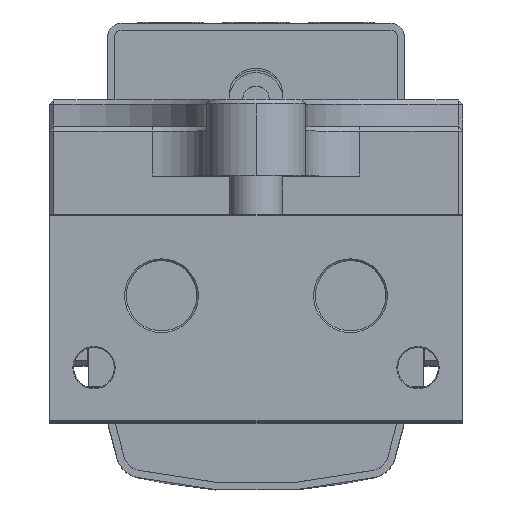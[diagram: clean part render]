
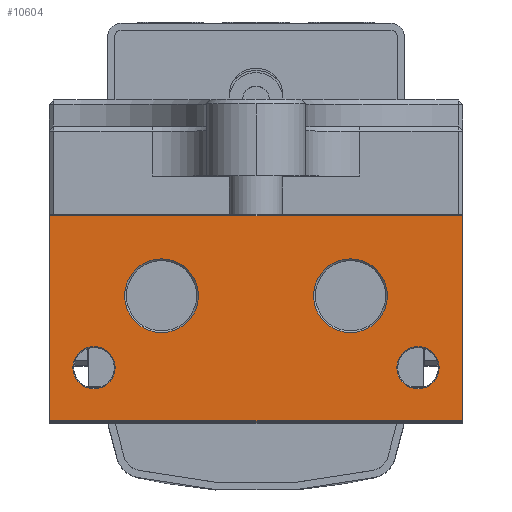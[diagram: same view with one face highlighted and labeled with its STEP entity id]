
A CAD part, top view. The second image highlights one B-rep face of the part: STEP entity #10604.
In plain terms, the highlighted planar face has unit normal (0, 0, 1).
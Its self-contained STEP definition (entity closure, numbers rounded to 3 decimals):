
#421 = ORIENTED_EDGE ( 'NONE', *, *, #3142, .T. ) ;
#1069 = CARTESIAN_POINT ( 'NONE',  ( 15.65, 6., 120. ) ) ;
#1145 = DIRECTION ( 'NONE',  ( 0., 0., -1. ) ) ;
#1353 = DIRECTION ( 'NONE',  ( -1., 0., 0. ) ) ;
#1580 = VERTEX_POINT ( 'NONE', #22456 ) ;
#2059 = CARTESIAN_POINT ( 'NONE',  ( -18., 6., 120. ) ) ;
#2310 = CARTESIAN_POINT ( 'NONE',  ( -22.9, 0., 120. ) ) ;
#2481 = DIRECTION ( 'NONE',  ( -1., 0., 0. ) ) ;
#3106 = VERTEX_POINT ( 'NONE', #7255 ) ;
#3142 = EDGE_CURVE ( 'NONE', #15205, #1580, #7298, .T. ) ;
#3160 = AXIS2_PLACEMENT_3D ( 'NONE', #28952, #8712, #32268 ) ;
#3374 = DIRECTION ( 'NONE',  ( 0., 0., -1. ) ) ;
#3799 = CARTESIAN_POINT ( 'NONE',  ( -22.9, 22.9, 120. ) ) ;
#4512 = ORIENTED_EDGE ( 'NONE', *, *, #37881, .T. ) ;
#4769 = EDGE_LOOP ( 'NONE', ( #30923, #23575, #38433, #15818 ) ) ;
#5432 = CARTESIAN_POINT ( 'NONE',  ( -20.35, 6., 120. ) ) ;
#7202 = AXIS2_PLACEMENT_3D ( 'NONE', #41511, #21867, #1353 ) ;
#7255 = CARTESIAN_POINT ( 'NONE',  ( -14.6, 14., 120. ) ) ;
#7298 = CIRCLE ( 'NONE', #38043, 4.1 ) ;
#7494 = CIRCLE ( 'NONE', #26962, 2.35 ) ;
#7541 = CARTESIAN_POINT ( 'NONE',  ( -23., 22.9, 120. ) ) ;
#7762 = FACE_BOUND ( 'NONE', #19998, .T. ) ;
#7811 = VERTEX_POINT ( 'NONE', #1069 ) ;
#8256 = ORIENTED_EDGE ( 'NONE', *, *, #12387, .T. ) ;
#8712 = DIRECTION ( 'NONE',  ( 0., 0., -1. ) ) ;
#8732 = EDGE_CURVE ( 'NONE', #35239, #18692, #41320, .T. ) ;
#8822 = LINE ( 'NONE', #7541, #43189 ) ;
#10137 = CIRCLE ( 'NONE', #11641, 4.1 ) ;
#10604 = ADVANCED_FACE ( 'NONE', ( #27907, #7762, #34550, #42184, #33542 ), #41702, .F. ) ;
#10970 = DIRECTION ( 'NONE',  ( -1., 0., 0. ) ) ;
#11333 = LINE ( 'NONE', #39538, #36902 ) ;
#11508 = CARTESIAN_POINT ( 'NONE',  ( 22.9, 0.1, 120. ) ) ;
#11641 = AXIS2_PLACEMENT_3D ( 'NONE', #36266, #16407, #39544 ) ;
#11885 = ORIENTED_EDGE ( 'NONE', *, *, #38840, .T. ) ;
#12262 = VECTOR ( 'NONE', #26129, 1000. ) ;
#12387 = EDGE_CURVE ( 'NONE', #7811, #28614, #7494, .T. ) ;
#13090 = EDGE_LOOP ( 'NONE', ( #11885, #40617 ) ) ;
#14238 = CARTESIAN_POINT ( 'NONE',  ( 14.6, 14., 120. ) ) ;
#14494 = ORIENTED_EDGE ( 'NONE', *, *, #14965, .T. ) ;
#14965 = EDGE_CURVE ( 'NONE', #3106, #41912, #20891, .T. ) ;
#14973 = CARTESIAN_POINT ( 'NONE',  ( -18., 6., 120. ) ) ;
#15205 = VERTEX_POINT ( 'NONE', #14238 ) ;
#15818 = ORIENTED_EDGE ( 'NONE', *, *, #20932, .T. ) ;
#16407 = DIRECTION ( 'NONE',  ( 0., 0., -1. ) ) ;
#16619 = VERTEX_POINT ( 'NONE', #3799 ) ;
#18399 = DIRECTION ( 'NONE',  ( -1., 0., 0. ) ) ;
#18692 = VERTEX_POINT ( 'NONE', #21253 ) ;
#19652 = DIRECTION ( 'NONE',  ( 0., 0., -1. ) ) ;
#19998 = EDGE_LOOP ( 'NONE', ( #4512, #14494 ) ) ;
#20795 = VERTEX_POINT ( 'NONE', #35862 ) ;
#20891 = CIRCLE ( 'NONE', #24515, 4.1 ) ;
#20932 = EDGE_CURVE ( 'NONE', #37087, #20795, #24648, .T. ) ;
#20994 = EDGE_CURVE ( 'NONE', #1580, #15205, #21530, .T. ) ;
#21253 = CARTESIAN_POINT ( 'NONE',  ( -15.65, 6., 120. ) ) ;
#21530 = CIRCLE ( 'NONE', #3160, 4.1 ) ;
#21659 = CARTESIAN_POINT ( 'NONE',  ( 18., 6., 120. ) ) ;
#21845 = DIRECTION ( 'NONE',  ( 0., 1., 0. ) ) ;
#21867 = DIRECTION ( 'NONE',  ( 0., 0., -1. ) ) ;
#22456 = CARTESIAN_POINT ( 'NONE',  ( 6.4, 14., 120. ) ) ;
#23517 = CARTESIAN_POINT ( 'NONE',  ( 10.5, 14., 120. ) ) ;
#23575 = ORIENTED_EDGE ( 'NONE', *, *, #37841, .T. ) ;
#23952 = DIRECTION ( 'NONE',  ( 0., 0., -1. ) ) ;
#24044 = DIRECTION ( 'NONE',  ( -1., 0., 0. ) ) ;
#24187 = AXIS2_PLACEMENT_3D ( 'NONE', #14973, #38172, #18399 ) ;
#24515 = AXIS2_PLACEMENT_3D ( 'NONE', #39367, #19652, #42642 ) ;
#24648 = LINE ( 'NONE', #41490, #42064 ) ;
#25003 = DIRECTION ( 'NONE',  ( -1., 0., 0. ) ) ;
#25672 = AXIS2_PLACEMENT_3D ( 'NONE', #2059, #3374, #2481 ) ;
#26129 = DIRECTION ( 'NONE',  ( 0., -1., 0. ) ) ;
#26794 = ORIENTED_EDGE ( 'NONE', *, *, #41572, .T. ) ;
#26962 = AXIS2_PLACEMENT_3D ( 'NONE', #21659, #1145, #25003 ) ;
#27907 = FACE_BOUND ( 'NONE', #29919, .T. ) ;
#28231 = EDGE_CURVE ( 'NONE', #20795, #16619, #8822, .T. ) ;
#28614 = VERTEX_POINT ( 'NONE', #36465 ) ;
#28952 = CARTESIAN_POINT ( 'NONE',  ( 10.5, 14., 120. ) ) ;
#29919 = EDGE_LOOP ( 'NONE', ( #421, #33484 ) ) ;
#30062 = VERTEX_POINT ( 'NONE', #31888 ) ;
#30184 = AXIS2_PLACEMENT_3D ( 'NONE', #41653, #41978, #41894 ) ;
#30923 = ORIENTED_EDGE ( 'NONE', *, *, #28231, .T. ) ;
#31888 = CARTESIAN_POINT ( 'NONE',  ( -22.9, 0.1, 120. ) ) ;
#32268 = DIRECTION ( 'NONE',  ( -1., 0., 0. ) ) ;
#33484 = ORIENTED_EDGE ( 'NONE', *, *, #20994, .T. ) ;
#33542 = FACE_OUTER_BOUND ( 'NONE', #4769, .T. ) ;
#34550 = FACE_BOUND ( 'NONE', #13090, .T. ) ;
#34991 = CARTESIAN_POINT ( 'NONE',  ( -6.4, 14., 120. ) ) ;
#35239 = VERTEX_POINT ( 'NONE', #5432 ) ;
#35862 = CARTESIAN_POINT ( 'NONE',  ( 22.9, 22.9, 120. ) ) ;
#36258 = DIRECTION ( 'NONE',  ( 1., 0., 0. ) ) ;
#36266 = CARTESIAN_POINT ( 'NONE',  ( -10.5, 14., 120. ) ) ;
#36465 = CARTESIAN_POINT ( 'NONE',  ( 20.35, 6., 120. ) ) ;
#36686 = CIRCLE ( 'NONE', #24187, 2.35 ) ;
#36902 = VECTOR ( 'NONE', #36258, 1000. ) ;
#37087 = VERTEX_POINT ( 'NONE', #11508 ) ;
#37804 = LINE ( 'NONE', #2310, #12262 ) ;
#37841 = EDGE_CURVE ( 'NONE', #16619, #30062, #37804, .T. ) ;
#37881 = EDGE_CURVE ( 'NONE', #41912, #3106, #10137, .T. ) ;
#38043 = AXIS2_PLACEMENT_3D ( 'NONE', #23517, #23952, #24044 ) ;
#38172 = DIRECTION ( 'NONE',  ( 0., 0., -1. ) ) ;
#38433 = ORIENTED_EDGE ( 'NONE', *, *, #42161, .T. ) ;
#38840 = EDGE_CURVE ( 'NONE', #18692, #35239, #36686, .T. ) ;
#39147 = EDGE_LOOP ( 'NONE', ( #26794, #8256 ) ) ;
#39367 = CARTESIAN_POINT ( 'NONE',  ( -10.5, 14., 120. ) ) ;
#39538 = CARTESIAN_POINT ( 'NONE',  ( 23., 0.1, 120. ) ) ;
#39544 = DIRECTION ( 'NONE',  ( -1., 0., 0. ) ) ;
#40617 = ORIENTED_EDGE ( 'NONE', *, *, #8732, .T. ) ;
#41320 = CIRCLE ( 'NONE', #25672, 2.35 ) ;
#41490 = CARTESIAN_POINT ( 'NONE',  ( 22.9, 23., 120. ) ) ;
#41511 = CARTESIAN_POINT ( 'NONE',  ( 18., 6., 120. ) ) ;
#41572 = EDGE_CURVE ( 'NONE', #28614, #7811, #42054, .T. ) ;
#41653 = CARTESIAN_POINT ( 'NONE',  ( -23., 0., 120. ) ) ;
#41702 = PLANE ( 'NONE',  #30184 ) ;
#41894 = DIRECTION ( 'NONE',  ( -1., 0., 0. ) ) ;
#41912 = VERTEX_POINT ( 'NONE', #34991 ) ;
#41978 = DIRECTION ( 'NONE',  ( 0., 0., -1. ) ) ;
#42054 = CIRCLE ( 'NONE', #7202, 2.35 ) ;
#42064 = VECTOR ( 'NONE', #21845, 1000. ) ;
#42161 = EDGE_CURVE ( 'NONE', #30062, #37087, #11333, .T. ) ;
#42184 = FACE_BOUND ( 'NONE', #39147, .T. ) ;
#42642 = DIRECTION ( 'NONE',  ( -1., 0., 0. ) ) ;
#43189 = VECTOR ( 'NONE', #10970, 1000. ) ;
